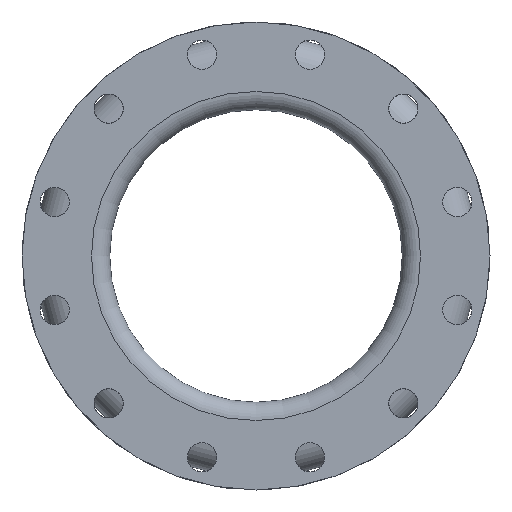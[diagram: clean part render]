
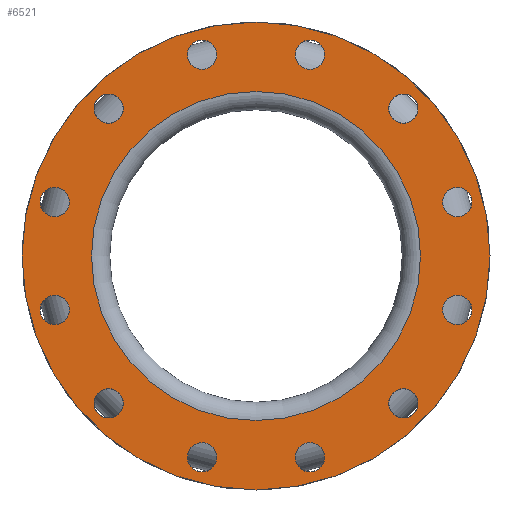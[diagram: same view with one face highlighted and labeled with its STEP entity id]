
A CAD part, left-side view. The second image highlights one B-rep face of the part: STEP entity #6521.
In plain terms, the highlighted planar face has unit normal (-1, 0, 0).
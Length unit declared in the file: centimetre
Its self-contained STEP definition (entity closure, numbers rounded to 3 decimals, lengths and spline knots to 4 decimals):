
#108=FACE_BOUND('',#1167,.T.);
#109=FACE_BOUND('',#1168,.T.);
#110=FACE_BOUND('',#1169,.T.);
#111=FACE_BOUND('',#1170,.T.);
#112=FACE_BOUND('',#1171,.T.);
#113=FACE_BOUND('',#1172,.T.);
#114=FACE_BOUND('',#1173,.T.);
#115=FACE_BOUND('',#1174,.T.);
#116=FACE_BOUND('',#1175,.T.);
#117=FACE_BOUND('',#1176,.T.);
#118=FACE_BOUND('',#1177,.T.);
#119=FACE_BOUND('',#1178,.T.);
#120=FACE_BOUND('',#1179,.T.);
#121=FACE_BOUND('',#1180,.T.);
#1167=EDGE_LOOP('',(#5003));
#1168=EDGE_LOOP('',(#5004));
#1169=EDGE_LOOP('',(#5005));
#1170=EDGE_LOOP('',(#5006));
#1171=EDGE_LOOP('',(#5007));
#1172=EDGE_LOOP('',(#5008));
#1173=EDGE_LOOP('',(#5009));
#1174=EDGE_LOOP('',(#5010));
#1175=EDGE_LOOP('',(#5011));
#1176=EDGE_LOOP('',(#5012));
#1177=EDGE_LOOP('',(#5013));
#1178=EDGE_LOOP('',(#5014));
#1179=EDGE_LOOP('',(#5015));
#1180=EDGE_LOOP('',(#5016));
#2288=CIRCLE('',#7109,1.27);
#2290=CIRCLE('',#7112,1.27);
#2292=CIRCLE('',#7115,1.27);
#2294=CIRCLE('',#7118,1.27);
#2296=CIRCLE('',#7121,1.27);
#2298=CIRCLE('',#7124,1.27);
#2300=CIRCLE('',#7127,1.27);
#2302=CIRCLE('',#7130,1.27);
#2304=CIRCLE('',#7133,1.27);
#2306=CIRCLE('',#7136,1.27);
#2308=CIRCLE('',#7139,1.27);
#2310=CIRCLE('',#7142,1.27);
#2346=CIRCLE('',#7201,14.2875);
#2347=CIRCLE('',#7203,20.32);
#2892=VERTEX_POINT('',#10755);
#2894=VERTEX_POINT('',#10760);
#2896=VERTEX_POINT('',#10765);
#2898=VERTEX_POINT('',#10770);
#2900=VERTEX_POINT('',#10775);
#2902=VERTEX_POINT('',#10780);
#2904=VERTEX_POINT('',#10785);
#2906=VERTEX_POINT('',#10790);
#2908=VERTEX_POINT('',#10795);
#2910=VERTEX_POINT('',#10800);
#2912=VERTEX_POINT('',#10805);
#2914=VERTEX_POINT('',#10810);
#2950=VERTEX_POINT('',#10905);
#2951=VERTEX_POINT('',#10908);
#3648=EDGE_CURVE('',#2892,#2892,#2288,.T.);
#3650=EDGE_CURVE('',#2894,#2894,#2290,.T.);
#3652=EDGE_CURVE('',#2896,#2896,#2292,.T.);
#3654=EDGE_CURVE('',#2898,#2898,#2294,.T.);
#3656=EDGE_CURVE('',#2900,#2900,#2296,.T.);
#3658=EDGE_CURVE('',#2902,#2902,#2298,.T.);
#3660=EDGE_CURVE('',#2904,#2904,#2300,.T.);
#3662=EDGE_CURVE('',#2906,#2906,#2302,.T.);
#3664=EDGE_CURVE('',#2908,#2908,#2304,.T.);
#3666=EDGE_CURVE('',#2910,#2910,#2306,.T.);
#3668=EDGE_CURVE('',#2912,#2912,#2308,.T.);
#3670=EDGE_CURVE('',#2914,#2914,#2310,.T.);
#3706=EDGE_CURVE('',#2950,#2950,#2346,.T.);
#3707=EDGE_CURVE('',#2951,#2951,#2347,.T.);
#5003=ORIENTED_EDGE('',*,*,#3648,.T.);
#5004=ORIENTED_EDGE('',*,*,#3650,.T.);
#5005=ORIENTED_EDGE('',*,*,#3652,.T.);
#5006=ORIENTED_EDGE('',*,*,#3654,.T.);
#5007=ORIENTED_EDGE('',*,*,#3656,.T.);
#5008=ORIENTED_EDGE('',*,*,#3658,.T.);
#5009=ORIENTED_EDGE('',*,*,#3660,.T.);
#5010=ORIENTED_EDGE('',*,*,#3662,.T.);
#5011=ORIENTED_EDGE('',*,*,#3664,.T.);
#5012=ORIENTED_EDGE('',*,*,#3666,.T.);
#5013=ORIENTED_EDGE('',*,*,#3668,.T.);
#5014=ORIENTED_EDGE('',*,*,#3670,.T.);
#5015=ORIENTED_EDGE('',*,*,#3707,.F.);
#5016=ORIENTED_EDGE('',*,*,#3706,.T.);
#5929=PLANE('',#7202);
#6521=ADVANCED_FACE('',(#108,#109,#110,#111,#112,#113,#114,#115,#116,#117,
#118,#119,#120,#121),#5929,.T.);
#7109=AXIS2_PLACEMENT_3D('',#10756,#8605,#8606);
#7112=AXIS2_PLACEMENT_3D('',#10761,#8611,#8612);
#7115=AXIS2_PLACEMENT_3D('',#10766,#8617,#8618);
#7118=AXIS2_PLACEMENT_3D('',#10771,#8623,#8624);
#7121=AXIS2_PLACEMENT_3D('',#10776,#8629,#8630);
#7124=AXIS2_PLACEMENT_3D('',#10781,#8635,#8636);
#7127=AXIS2_PLACEMENT_3D('',#10786,#8641,#8642);
#7130=AXIS2_PLACEMENT_3D('',#10791,#8647,#8648);
#7133=AXIS2_PLACEMENT_3D('',#10796,#8653,#8654);
#7136=AXIS2_PLACEMENT_3D('',#10801,#8659,#8660);
#7139=AXIS2_PLACEMENT_3D('',#10806,#8665,#8666);
#7142=AXIS2_PLACEMENT_3D('',#10811,#8671,#8672);
#7201=AXIS2_PLACEMENT_3D('',#10906,#8789,#8790);
#7202=AXIS2_PLACEMENT_3D('',#10907,#8791,#8792);
#7203=AXIS2_PLACEMENT_3D('',#10909,#8793,#8794);
#8605=DIRECTION('center_axis',(1.,0.,0.));
#8606=DIRECTION('ref_axis',(0.,-0.866,0.5));
#8611=DIRECTION('center_axis',(1.,0.,0.));
#8612=DIRECTION('ref_axis',(0.,-0.5,0.866));
#8617=DIRECTION('center_axis',(1.,0.,0.));
#8618=DIRECTION('ref_axis',(0.,0.,
1.));
#8623=DIRECTION('center_axis',(1.,0.,0.));
#8624=DIRECTION('ref_axis',(0.,0.5,0.866));
#8629=DIRECTION('center_axis',(1.,0.,0.));
#8630=DIRECTION('ref_axis',(0.,0.866,0.5));
#8635=DIRECTION('center_axis',(1.,0.,0.));
#8636=DIRECTION('ref_axis',(0.,1.,0.));
#8641=DIRECTION('center_axis',(1.,0.,0.));
#8642=DIRECTION('ref_axis',(0.,0.866,-0.5));
#8647=DIRECTION('center_axis',(1.,0.,0.));
#8648=DIRECTION('ref_axis',(0.,0.5,-0.866));
#8653=DIRECTION('center_axis',(1.,0.,0.));
#8654=DIRECTION('ref_axis',(0.,0.,
-1.));
#8659=DIRECTION('center_axis',(1.,0.,0.));
#8660=DIRECTION('ref_axis',(0.,-0.5,-0.866));
#8665=DIRECTION('center_axis',(1.,0.,0.));
#8666=DIRECTION('ref_axis',(0.,-0.866,-0.5));
#8671=DIRECTION('center_axis',(1.,0.,0.));
#8672=DIRECTION('ref_axis',(0.,-1.,0.));
#8789=DIRECTION('center_axis',(1.,0.,0.));
#8790=DIRECTION('ref_axis',(0.,0.,-1.));
#8791=DIRECTION('center_axis',(-1.,0.,0.));
#8792=DIRECTION('ref_axis',(0.,0.,1.));
#8793=DIRECTION('center_axis',(1.,0.,0.));
#8794=DIRECTION('ref_axis',(0.,0.,-1.));
#10755=CARTESIAN_POINT('',(-15.24,13.8967,-13.4319));
#10756=CARTESIAN_POINT('Origin',(-15.24,12.7969,-12.7969));
#10760=CARTESIAN_POINT('',(-15.24,5.319,-18.5807));
#10761=CARTESIAN_POINT('Origin',(-15.24,4.684,-17.4808));
#10765=CARTESIAN_POINT('',(-15.24,-4.684,-18.7508));
#10766=CARTESIAN_POINT('Origin',(-15.24,-4.684,-17.4808));
#10770=CARTESIAN_POINT('',(-15.24,-13.4319,-13.8967));
#10771=CARTESIAN_POINT('Origin',(-15.24,-12.7969,-12.7969));
#10775=CARTESIAN_POINT('',(-15.24,-18.5807,-5.319));
#10776=CARTESIAN_POINT('Origin',(-15.24,-17.4808,-4.684));
#10780=CARTESIAN_POINT('',(-15.24,-18.7508,4.684));
#10781=CARTESIAN_POINT('Origin',(-15.24,-17.4808,4.684));
#10785=CARTESIAN_POINT('',(-15.24,-13.8967,13.4319));
#10786=CARTESIAN_POINT('Origin',(-15.24,-12.7969,12.7969));
#10790=CARTESIAN_POINT('',(-15.24,-5.319,18.5807));
#10791=CARTESIAN_POINT('Origin',(-15.24,-4.684,17.4808));
#10795=CARTESIAN_POINT('',(-15.24,4.684,18.7508));
#10796=CARTESIAN_POINT('Origin',(-15.24,4.684,17.4808));
#10800=CARTESIAN_POINT('',(-15.24,13.4319,13.8967));
#10801=CARTESIAN_POINT('Origin',(-15.24,12.7969,12.7969));
#10805=CARTESIAN_POINT('',(-15.24,18.5807,5.319));
#10806=CARTESIAN_POINT('Origin',(-15.24,17.4808,4.684));
#10810=CARTESIAN_POINT('',(-15.24,18.7508,-4.684));
#10811=CARTESIAN_POINT('Origin',(-15.24,17.4808,-4.684));
#10905=CARTESIAN_POINT('',(-15.24,14.2875,0.));
#10906=CARTESIAN_POINT('Origin',(-15.24,0.,0.));
#10907=CARTESIAN_POINT('Origin',(-15.24,20.32,0.));
#10908=CARTESIAN_POINT('',(-15.24,20.32,0.));
#10909=CARTESIAN_POINT('Origin',(-15.24,0.,0.));
